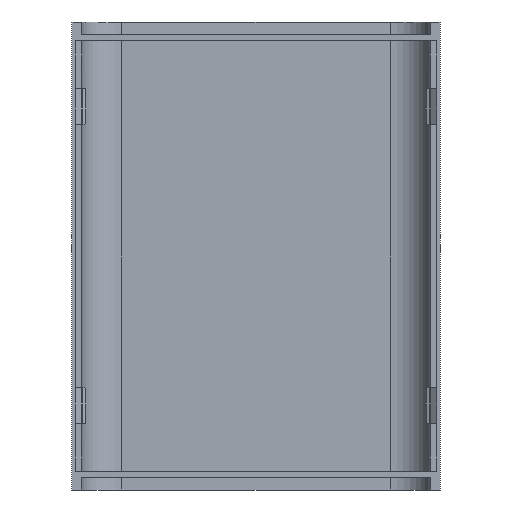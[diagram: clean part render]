
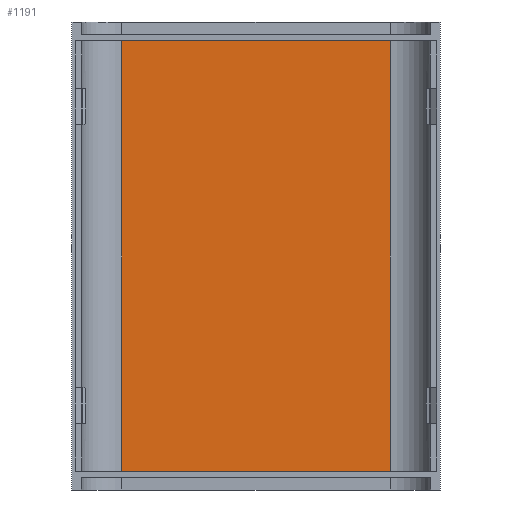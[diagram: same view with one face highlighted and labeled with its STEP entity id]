
A CAD part, front view. The second image highlights one B-rep face of the part: STEP entity #1191.
In plain terms, the highlighted planar face has unit normal (0, -1, 0).
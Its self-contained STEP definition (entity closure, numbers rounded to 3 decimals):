
#57 = CARTESIAN_POINT ( 'NONE',  ( -52.45, 12.2, -64.6 ) ) ;
#136 = CARTESIAN_POINT ( 'NONE',  ( 40.25, 12.2, -64.6 ) ) ;
#198 = DIRECTION ( 'NONE',  ( 1., 0., 0. ) ) ;
#206 = CARTESIAN_POINT ( 'NONE',  ( -40.25, 12.2, 64.6 ) ) ;
#267 = EDGE_CURVE ( 'NONE', #318, #1904, #1334, .T. ) ;
#287 = PLANE ( 'NONE',  #957 ) ;
#318 = VERTEX_POINT ( 'NONE', #598 ) ;
#436 = DIRECTION ( 'NONE',  ( 0., 0., -1. ) ) ;
#598 = CARTESIAN_POINT ( 'NONE',  ( -40.25, 12.2, -64.6 ) ) ;
#782 = DIRECTION ( 'NONE',  ( 0., 0., 1. ) ) ;
#800 = ORIENTED_EDGE ( 'NONE', *, *, #1440, .T. ) ;
#821 = ORIENTED_EDGE ( 'NONE', *, *, #1207, .T. ) ;
#825 = ORIENTED_EDGE ( 'NONE', *, *, #1461, .T. ) ;
#849 = ORIENTED_EDGE ( 'NONE', *, *, #267, .F. ) ;
#856 = VECTOR ( 'NONE', #1467, 1000. ) ;
#872 = LINE ( 'NONE', #1311, #856 ) ;
#894 = VECTOR ( 'NONE', #198, 1000. ) ;
#921 = LINE ( 'NONE', #57, #894 ) ;
#938 = DIRECTION ( 'NONE',  ( 0., 0., 1. ) ) ;
#957 = AXIS2_PLACEMENT_3D ( 'NONE', #1073, #1398, #436 ) ;
#1073 = CARTESIAN_POINT ( 'NONE',  ( -40.25, 12.2, -70.25 ) ) ;
#1097 = CARTESIAN_POINT ( 'NONE',  ( 40.25, 12.2, 64.6 ) ) ;
#1191 = ADVANCED_FACE ( 'NONE', ( #1646 ), #287, .T. ) ;
#1207 = EDGE_CURVE ( 'NONE', #1975, #1211, #1521, .T. ) ;
#1211 = VERTEX_POINT ( 'NONE', #1097 ) ;
#1248 = CARTESIAN_POINT ( 'NONE',  ( -40.25, 12.2, -70.25 ) ) ;
#1285 = VECTOR ( 'NONE', #938, 1000. ) ;
#1311 = CARTESIAN_POINT ( 'NONE',  ( -52.45, 12.2, 64.6 ) ) ;
#1334 = LINE ( 'NONE', #1248, #1285 ) ;
#1398 = DIRECTION ( 'NONE',  ( 0., -1., 0. ) ) ;
#1440 = EDGE_CURVE ( 'NONE', #318, #1975, #921, .T. ) ;
#1461 = EDGE_CURVE ( 'NONE', #1211, #1904, #872, .T. ) ;
#1467 = DIRECTION ( 'NONE',  ( -1., 0., 0. ) ) ;
#1521 = LINE ( 'NONE', #1699, #1543 ) ;
#1543 = VECTOR ( 'NONE', #782, 1000. ) ;
#1646 = FACE_OUTER_BOUND ( 'NONE', #1703, .T. ) ;
#1699 = CARTESIAN_POINT ( 'NONE',  ( 40.25, 12.2, -70.25 ) ) ;
#1703 = EDGE_LOOP ( 'NONE', ( #800, #821, #825, #849 ) ) ;
#1904 = VERTEX_POINT ( 'NONE', #206 ) ;
#1975 = VERTEX_POINT ( 'NONE', #136 ) ;
